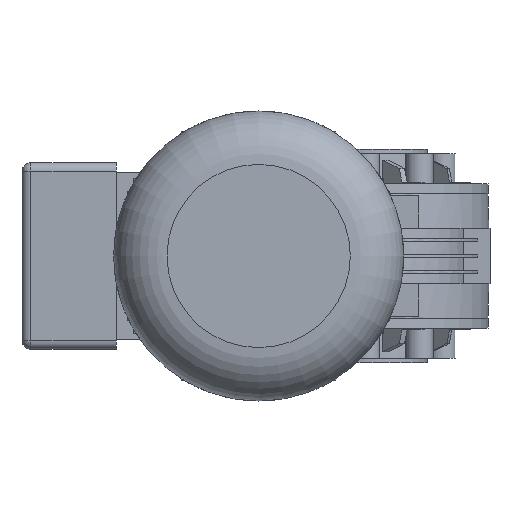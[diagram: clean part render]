
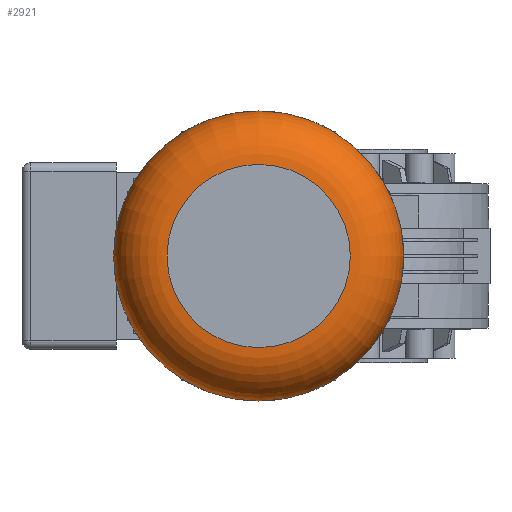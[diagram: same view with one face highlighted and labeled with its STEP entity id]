
A CAD part, left-side view. The second image highlights one B-rep face of the part: STEP entity #2921.
In plain terms, the highlighted toroidal (fillet/blend) face has major radius 51.5 mm and minor radius 30 mm.
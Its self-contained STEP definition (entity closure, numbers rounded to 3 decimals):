
#2921 = ADVANCED_FACE( '', ( #6029, #6030 ), #6031, .T. );
#6029 = FACE_OUTER_BOUND( '', #9162, .T. );
#6030 = FACE_OUTER_BOUND( '', #9163, .T. );
#6031 = TOROIDAL_SURFACE( '', #9164, 51.5, 30. );
#9162 = EDGE_LOOP( '', ( #17918 ) );
#9163 = EDGE_LOOP( '', ( #17919 ) );
#9164 = AXIS2_PLACEMENT_3D( '', #17920, #17921, #17922 );
#17918 = ORIENTED_EDGE( '', *, *, #21306, .F. );
#17919 = ORIENTED_EDGE( '', *, *, #18647, .F. );
#17920 = CARTESIAN_POINT( '', ( -313., 60., 0. ) );
#17921 = DIRECTION( '', ( -1., 0., 0. ) );
#17922 = DIRECTION( '', ( 0., 1., 0. ) );
#18647 = EDGE_CURVE( '', #22499, #22499, #22500, .F. );
#21306 = EDGE_CURVE( '', #26437, #26437, #26438, .T. );
#22499 = VERTEX_POINT( '', #28051 );
#22500 = CIRCLE( '', #28052, 81.5 );
#26437 = VERTEX_POINT( '', #33809 );
#26438 = CIRCLE( '', #33810, 51.5 );
#28051 = CARTESIAN_POINT( '', ( -313., 141.5, 0. ) );
#28052 = AXIS2_PLACEMENT_3D( '', #34805, #34806, #34807 );
#33809 = CARTESIAN_POINT( '', ( -343., 111.5, 0. ) );
#33810 = AXIS2_PLACEMENT_3D( '', #37643, #37644, #37645 );
#34805 = CARTESIAN_POINT( '', ( -313., 60., 0. ) );
#34806 = DIRECTION( '', ( -1., 0., 0. ) );
#34807 = DIRECTION( '', ( 0., 1., 0. ) );
#37643 = CARTESIAN_POINT( '', ( -343., 60., 0. ) );
#37644 = DIRECTION( '', ( -1., 0., 0. ) );
#37645 = DIRECTION( '', ( 0., 1., 0. ) );
